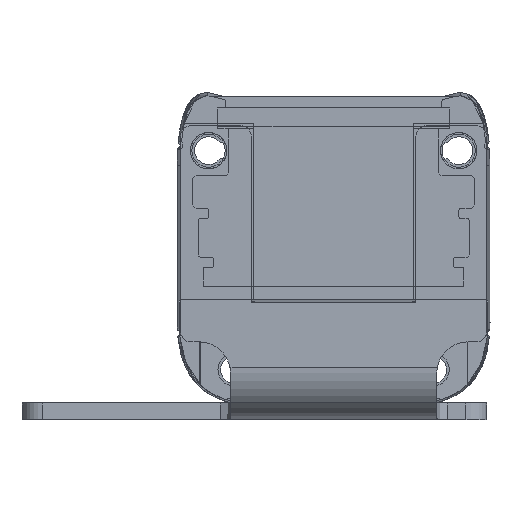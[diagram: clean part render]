
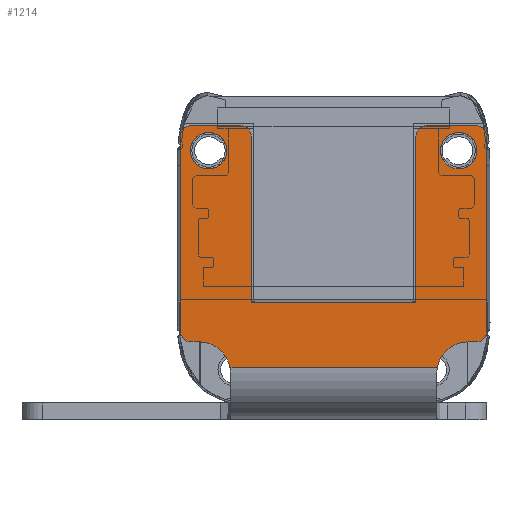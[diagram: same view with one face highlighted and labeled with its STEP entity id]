
A CAD part, front view. The second image highlights one B-rep face of the part: STEP entity #1214.
In plain terms, the highlighted planar face has unit normal (0, -1, 0).
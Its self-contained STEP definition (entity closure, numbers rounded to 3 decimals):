
#1214=ADVANCED_FACE('',(#1904,#1905,#1906),#1492,.T.);
#1492=PLANE('',#9447);
#1797=CIRCLE('',#9437,3.);
#1798=CIRCLE('',#9438,1.);
#1799=CIRCLE('',#9439,1.);
#1800=CIRCLE('',#9440,1.);
#1801=CIRCLE('',#9441,1.);
#1802=CIRCLE('',#9442,1.);
#1803=CIRCLE('',#9443,1.);
#1804=CIRCLE('',#9444,3.);
#1805=CIRCLE('',#9445,1.75);
#1806=CIRCLE('',#9446,1.75);
#1904=FACE_BOUND('',#2370,.T.);
#1905=FACE_BOUND('',#2371,.T.);
#1906=FACE_BOUND('',#2372,.T.);
#2370=EDGE_LOOP('',(#4747,#4748,#4749,#4750,#4751,#4752,#4753,#4754,#4755,
#4756,#4757,#4758,#4759,#4760,#4761,#4762,#4763,#4764));
#2371=EDGE_LOOP('',(#4765));
#2372=EDGE_LOOP('',(#4766));
#4747=ORIENTED_EDGE('',*,*,#6984,.T.);
#4748=ORIENTED_EDGE('',*,*,#6985,.F.);
#4749=ORIENTED_EDGE('',*,*,#6986,.T.);
#4750=ORIENTED_EDGE('',*,*,#6987,.T.);
#4751=ORIENTED_EDGE('',*,*,#6988,.T.);
#4752=ORIENTED_EDGE('',*,*,#6989,.T.);
#4753=ORIENTED_EDGE('',*,*,#6990,.T.);
#4754=ORIENTED_EDGE('',*,*,#6991,.F.);
#4755=ORIENTED_EDGE('',*,*,#6992,.F.);
#4756=ORIENTED_EDGE('',*,*,#6993,.T.);
#4757=ORIENTED_EDGE('',*,*,#6994,.T.);
#4758=ORIENTED_EDGE('',*,*,#6995,.F.);
#4759=ORIENTED_EDGE('',*,*,#6996,.T.);
#4760=ORIENTED_EDGE('',*,*,#6997,.F.);
#4761=ORIENTED_EDGE('',*,*,#6998,.T.);
#4762=ORIENTED_EDGE('',*,*,#6999,.T.);
#4763=ORIENTED_EDGE('',*,*,#7000,.T.);
#4764=ORIENTED_EDGE('',*,*,#7001,.T.);
#4765=ORIENTED_EDGE('',*,*,#7002,.F.);
#4766=ORIENTED_EDGE('',*,*,#7003,.T.);
#5758=VERTEX_POINT('',#15424);
#5759=VERTEX_POINT('',#15425);
#5760=VERTEX_POINT('',#15427);
#5761=VERTEX_POINT('',#15429);
#5762=VERTEX_POINT('',#15431);
#5763=VERTEX_POINT('',#15433);
#5764=VERTEX_POINT('',#15435);
#5765=VERTEX_POINT('',#15437);
#5766=VERTEX_POINT('',#15439);
#5767=VERTEX_POINT('',#15441);
#5768=VERTEX_POINT('',#15443);
#5769=VERTEX_POINT('',#15445);
#5770=VERTEX_POINT('',#15447);
#5771=VERTEX_POINT('',#15449);
#5772=VERTEX_POINT('',#15451);
#5773=VERTEX_POINT('',#15453);
#5774=VERTEX_POINT('',#15455);
#5775=VERTEX_POINT('',#15457);
#5776=VERTEX_POINT('',#15460);
#5777=VERTEX_POINT('',#15462);
#6984=EDGE_CURVE('',#5758,#5759,#1797,.T.);
#6985=EDGE_CURVE('',#5760,#5759,#7863,.T.);
#6986=EDGE_CURVE('',#5760,#5761,#1798,.T.);
#6987=EDGE_CURVE('',#5761,#5762,#7864,.T.);
#6988=EDGE_CURVE('',#5762,#5763,#1799,.T.);
#6989=EDGE_CURVE('',#5763,#5764,#7865,.T.);
#6990=EDGE_CURVE('',#5764,#5765,#1800,.T.);
#6991=EDGE_CURVE('',#5766,#5765,#7866,.T.);
#6992=EDGE_CURVE('',#5767,#5766,#7867,.T.);
#6993=EDGE_CURVE('',#5767,#5768,#7868,.T.);
#6994=EDGE_CURVE('',#5768,#5769,#1801,.T.);
#6995=EDGE_CURVE('',#5770,#5769,#7869,.T.);
#6996=EDGE_CURVE('',#5770,#5771,#1802,.T.);
#6997=EDGE_CURVE('',#5772,#5771,#7870,.T.);
#6998=EDGE_CURVE('',#5772,#5773,#1803,.T.);
#6999=EDGE_CURVE('',#5773,#5774,#7871,.T.);
#7000=EDGE_CURVE('',#5774,#5775,#1804,.T.);
#7001=EDGE_CURVE('',#5775,#5758,#7872,.T.);
#7002=EDGE_CURVE('',#5776,#5776,#1805,.T.);
#7003=EDGE_CURVE('',#5777,#5777,#1806,.T.);
#7863=LINE('',#15426,#8719);
#7864=LINE('',#15430,#8720);
#7865=LINE('',#15434,#8721);
#7866=LINE('',#15438,#8722);
#7867=LINE('',#15440,#8723);
#7868=LINE('',#15442,#8724);
#7869=LINE('',#15446,#8725);
#7870=LINE('',#15450,#8726);
#7871=LINE('',#15454,#8727);
#7872=LINE('',#15458,#8728);
#8719=VECTOR('',#11638,1.);
#8720=VECTOR('',#11641,1.);
#8721=VECTOR('',#11644,1.);
#8722=VECTOR('',#11647,1.);
#8723=VECTOR('',#11648,1.);
#8724=VECTOR('',#11649,1.);
#8725=VECTOR('',#11652,1.);
#8726=VECTOR('',#11655,1.);
#8727=VECTOR('',#11658,1.);
#8728=VECTOR('',#11661,1.);
#9437=AXIS2_PLACEMENT_3D('',#15423,#11636,#11637);
#9438=AXIS2_PLACEMENT_3D('',#15428,#11639,#11640);
#9439=AXIS2_PLACEMENT_3D('',#15432,#11642,#11643);
#9440=AXIS2_PLACEMENT_3D('',#15436,#11645,#11646);
#9441=AXIS2_PLACEMENT_3D('',#15444,#11650,#11651);
#9442=AXIS2_PLACEMENT_3D('',#15448,#11653,#11654);
#9443=AXIS2_PLACEMENT_3D('',#15452,#11656,#11657);
#9444=AXIS2_PLACEMENT_3D('',#15456,#11659,#11660);
#9445=AXIS2_PLACEMENT_3D('',#15459,#11662,#11663);
#9446=AXIS2_PLACEMENT_3D('',#15461,#11664,#11665);
#9447=AXIS2_PLACEMENT_3D('',#15463,#11666,#11667);
#11636=DIRECTION('',(0.,1.,0.));
#11637=DIRECTION('',(0.,0.,1.));
#11638=DIRECTION('',(-1.,0.,0.));
#11639=DIRECTION('',(0.,-1.,0.));
#11640=DIRECTION('',(0.,0.,1.));
#11641=DIRECTION('',(0.,0.,1.));
#11642=DIRECTION('',(0.,-1.,0.));
#11643=DIRECTION('',(0.,0.,-1.));
#11644=DIRECTION('',(-1.,0.,0.));
#11645=DIRECTION('',(0.,-1.,0.));
#11646=DIRECTION('',(0.,0.,-1.));
#11647=DIRECTION('',(0.,0.,1.));
#11648=DIRECTION('',(1.,0.,0.));
#11649=DIRECTION('',(0.,0.,1.));
#11650=DIRECTION('',(0.,-1.,0.));
#11651=DIRECTION('',(0.,0.,1.));
#11652=DIRECTION('',(1.,0.,0.));
#11653=DIRECTION('',(0.,-1.,0.));
#11654=DIRECTION('',(0.,0.,1.));
#11655=DIRECTION('',(0.,0.,1.));
#11656=DIRECTION('',(0.,-1.,0.));
#11657=DIRECTION('',(0.,0.,1.));
#11658=DIRECTION('',(1.,0.,0.));
#11659=DIRECTION('',(0.,1.,0.));
#11660=DIRECTION('',(0.,0.,1.));
#11661=DIRECTION('',(1.,0.,0.));
#11662=DIRECTION('',(0.,-1.,0.));
#11663=DIRECTION('',(0.,0.,1.));
#11664=DIRECTION('',(0.,1.,0.));
#11665=DIRECTION('',(0.,0.,-1.));
#11666=DIRECTION('',(0.,-1.,0.));
#11667=DIRECTION('',(1.,0.,0.));
#15423=CARTESIAN_POINT('',(12.89,5.8,-139.533));
#15424=CARTESIAN_POINT('',(9.939,5.8,-138.994));
#15425=CARTESIAN_POINT('',(12.89,5.8,-136.533));
#15426=CARTESIAN_POINT('',(-7.89,5.8,-136.533));
#15427=CARTESIAN_POINT('',(13.69,5.8,-136.533));
#15428=CARTESIAN_POINT('',(13.69,5.8,-135.533));
#15429=CARTESIAN_POINT('',(14.69,5.8,-135.533));
#15430=CARTESIAN_POINT('',(14.69,5.8,-115.6));
#15431=CARTESIAN_POINT('',(14.69,5.8,-116.8));
#15432=CARTESIAN_POINT('',(13.69,5.8,-116.8));
#15433=CARTESIAN_POINT('',(13.69,5.8,-115.8));
#15434=CARTESIAN_POINT('',(7.89,5.8,-115.8));
#15435=CARTESIAN_POINT('',(8.89,5.8,-115.8));
#15436=CARTESIAN_POINT('',(8.89,5.8,-116.8));
#15437=CARTESIAN_POINT('',(7.89,5.8,-116.8));
#15438=CARTESIAN_POINT('',(7.89,5.8,-115.6));
#15439=CARTESIAN_POINT('',(7.89,5.8,-132.733));
#15440=CARTESIAN_POINT('',(-9.89,5.8,-132.733));
#15441=CARTESIAN_POINT('',(-7.89,5.8,-132.733));
#15442=CARTESIAN_POINT('',(-7.89,5.8,-115.6));
#15443=CARTESIAN_POINT('',(-7.89,5.8,-116.8));
#15444=CARTESIAN_POINT('',(-8.89,5.8,-116.8));
#15445=CARTESIAN_POINT('',(-8.89,5.8,-115.8));
#15446=CARTESIAN_POINT('',(-7.89,5.8,-115.8));
#15447=CARTESIAN_POINT('',(-13.69,5.8,-115.8));
#15448=CARTESIAN_POINT('',(-13.69,5.8,-116.8));
#15449=CARTESIAN_POINT('',(-14.69,5.8,-116.8));
#15450=CARTESIAN_POINT('',(-14.69,5.8,-115.6));
#15451=CARTESIAN_POINT('',(-14.69,5.8,-135.533));
#15452=CARTESIAN_POINT('',(-13.69,5.8,-135.533));
#15453=CARTESIAN_POINT('',(-13.69,5.8,-136.533));
#15454=CARTESIAN_POINT('',(-7.89,5.8,-136.533));
#15455=CARTESIAN_POINT('',(-12.89,5.8,-136.533));
#15456=CARTESIAN_POINT('',(-12.89,5.8,-139.533));
#15457=CARTESIAN_POINT('',(-9.939,5.8,-138.994));
#15458=CARTESIAN_POINT('',(-9.89,5.8,-138.994));
#15459=CARTESIAN_POINT('',(-12.,5.8,-118.2));
#15460=CARTESIAN_POINT('',(-12.,5.8,-116.45));
#15461=CARTESIAN_POINT('',(12.,5.8,-118.2));
#15462=CARTESIAN_POINT('',(12.,5.8,-119.95));
#15463=CARTESIAN_POINT('',(-9.89,5.8,-142.394));
